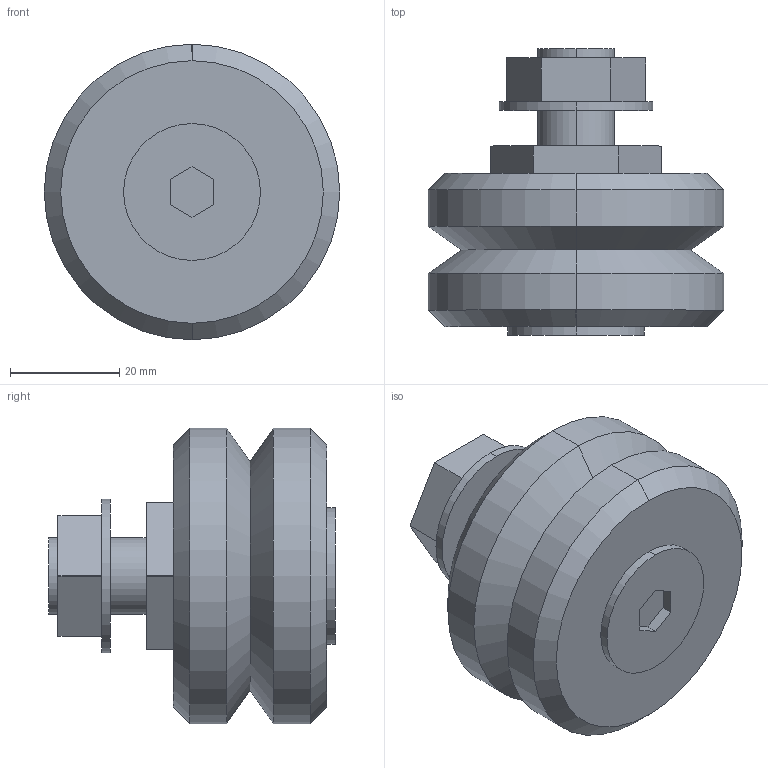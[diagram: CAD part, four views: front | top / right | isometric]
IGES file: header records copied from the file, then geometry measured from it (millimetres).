
Start section: 3D InterOp IGES (v. 2019 1.0.2), Spatial Corp. Copyright (c) 1999-2017.
Global section: file name: SS SJ54 C.igs; native system: Spatial Corp.; preprocessor: 3D InterOp GENERIC/IGES 3.0; author: Noname; organization: Noname; date: 20220628.114803; units: millimetre
Bounding box: 54 x 52.4 x 54 mm (x, y, z)
Surface area: 12188 mm2 (no closed solid volume)
Topology: 0 solids, 0 shells, 47 faces, 208 edges, 208 vertices
Faces by surface type: extrusion 27, revolution 20
